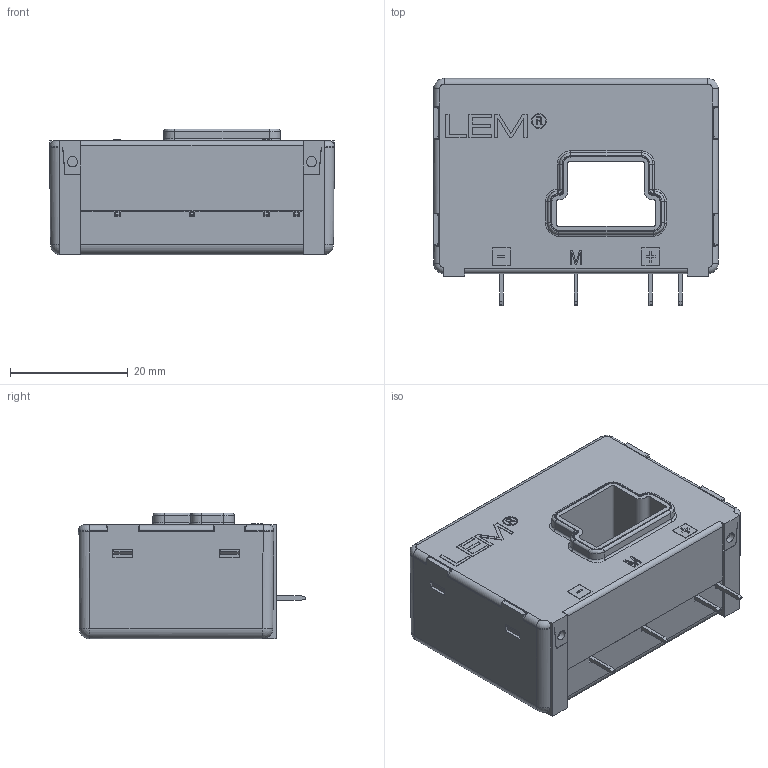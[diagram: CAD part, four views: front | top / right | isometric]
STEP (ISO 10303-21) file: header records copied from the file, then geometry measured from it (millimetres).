
FILE_DESCRIPTION(('Creo Elements/Direct Modeling STEP Export'),'2;1');
FILE_NAME('90.13.36.000.0_20230625.stp','2023-06-25T 7:54:44',(''),(''),'Creo Elements/Direct Modeling STEP processor for AP214 (Solid Model)','Creo Elements/Direct Modeling 20.3D 14-Nov-2022 (C) Parametric Technology GmbH','');
FILE_SCHEMA(('AUTOMOTIVE_DESIGN { 1 0 10303 214 1 1 1 1 }'));
Length unit declared in the file: millimetre
Products named in the file (1): 90.13.36.016.0_20180720
Bounding box: 48.42 x 38.6 x 21.4 mm (x, y, z)
Volume: 27812.4 mm3; surface area: 7756.6 mm2
Topology: 1 solids, 1 shells, 510 faces, 1366 edges, 878 vertices
Faces by surface type: plane 372, cylinder 92, bspline 38, sphere 4, torus 4
Entity records: 18651 total; most frequent: CARTESIAN_POINT 6229, ORIENTED_EDGE 2722, DIRECTION 2219, EDGE_CURVE 1361, VECTOR 1059, LINE 1059, VERTEX_POINT 878, AXIS2_PLACEMENT_3D 580
